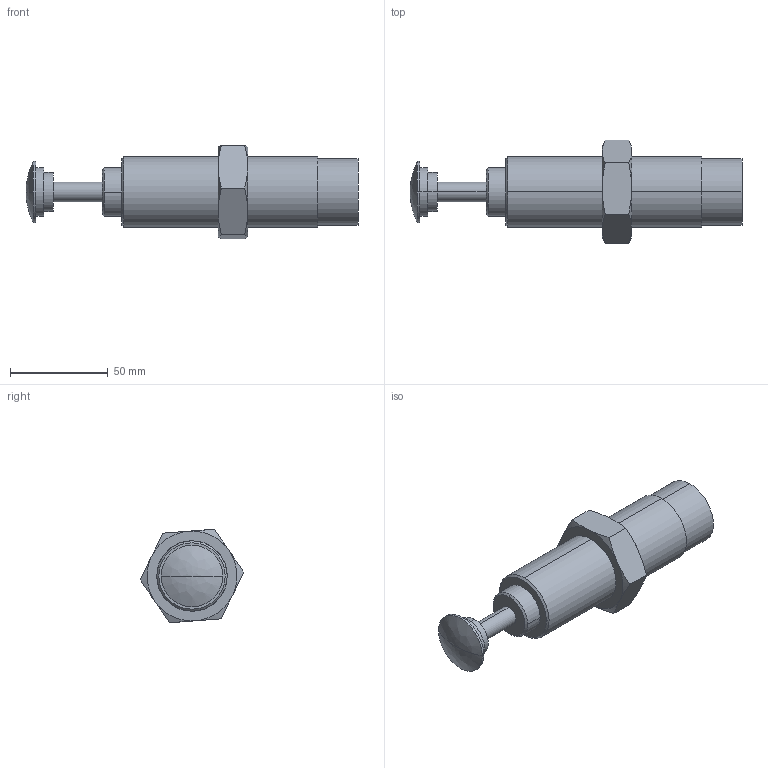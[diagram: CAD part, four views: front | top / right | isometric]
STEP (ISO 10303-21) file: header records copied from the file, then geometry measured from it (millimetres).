
FILE_DESCRIPTION (( 'STEP AP203' ), '1' );
FILE_NAME ('FSA-3625CD.STEP', '2016-03-17T07:49:32', ( 'Sam Lin' ), ( '' ), 'SwSTEP 2.0', 'SolidWorks 2013', '' );
FILE_SCHEMA (( 'CONFIG_CONTROL_DESIGN' ));
Length unit declared in the file: metre
Products named in the file (3): FSA-3625CD_1; M36x1.5-15mm_1; FSA-3625CD
Assembly tree (2 placements, depth 2):
  FSA-3625CD
    FSA-3625CD_1
    M36x1.5-15mm_1
Bounding box: 170 x 52.96 x 47.9 mm (x, y, z)
Volume: 145770.8 mm3; surface area: 24842 mm2
Topology: 2 solids, 2 shells, 49 faces, 108 edges, 67 vertices
Faces by surface type: cylinder 16, plane 15, bspline 14, cone 4
Entity records: 2003 total; most frequent: CARTESIAN_POINT 725, ORIENTED_EDGE 212, DIRECTION 194, EDGE_CURVE 106, AXIS2_PLACEMENT_3D 84, VERTEX_POINT 67, EDGE_LOOP 57, FACE_OUTER_BOUND 49
